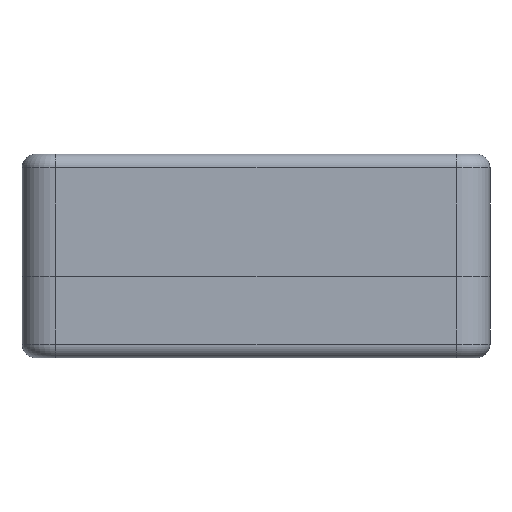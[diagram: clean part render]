
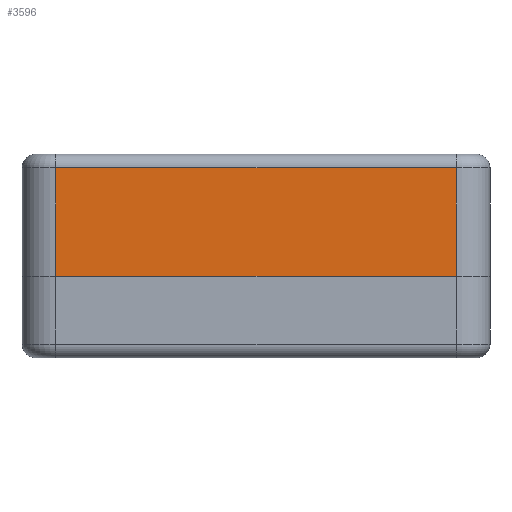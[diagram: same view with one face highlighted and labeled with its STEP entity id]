
A CAD part, left-side view. The second image highlights one B-rep face of the part: STEP entity #3596.
In plain terms, the highlighted planar face has unit normal (-1, 0, 0).
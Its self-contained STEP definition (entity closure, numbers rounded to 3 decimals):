
#128 = EDGE_CURVE ( 'NONE', #1738, #3631, #1146, .T. ) ;
#155 = PLANE ( 'NONE',  #677 ) ;
#450 = CARTESIAN_POINT ( 'NONE',  ( -2., 67., 18. ) ) ;
#495 = CARTESIAN_POINT ( 'NONE',  ( -2., 62., 0. ) ) ;
#602 = VECTOR ( 'NONE', #856, 1000. ) ;
#677 = AXIS2_PLACEMENT_3D ( 'NONE', #450, #2256, #1376 ) ;
#729 = CARTESIAN_POINT ( 'NONE',  ( -2., 3., 16. ) ) ;
#849 = DIRECTION ( 'NONE',  ( 0., 1., 0. ) ) ;
#856 = DIRECTION ( 'NONE',  ( 0., 0., 1. ) ) ;
#887 = EDGE_CURVE ( 'NONE', #3631, #3690, #3464, .T. ) ;
#976 = ORIENTED_EDGE ( 'NONE', *, *, #2249, .T. ) ;
#1101 = EDGE_LOOP ( 'NONE', ( #3405, #1608, #2883, #976 ) ) ;
#1146 = LINE ( 'NONE', #3229, #2765 ) ;
#1175 = DIRECTION ( 'NONE',  ( 0., -1., 0. ) ) ;
#1376 = DIRECTION ( 'NONE',  ( 0., 1., 0. ) ) ;
#1413 = CARTESIAN_POINT ( 'NONE',  ( -2., 3., 18. ) ) ;
#1584 = CARTESIAN_POINT ( 'NONE',  ( -2., 3., 0. ) ) ;
#1608 = ORIENTED_EDGE ( 'NONE', *, *, #128, .T. ) ;
#1738 = VERTEX_POINT ( 'NONE', #729 ) ;
#1908 = VERTEX_POINT ( 'NONE', #1584 ) ;
#2249 = EDGE_CURVE ( 'NONE', #3690, #1908, #2979, .T. ) ;
#2256 = DIRECTION ( 'NONE',  ( 1., 0., 0. ) ) ;
#2678 = LINE ( 'NONE', #1413, #602 ) ;
#2681 = CARTESIAN_POINT ( 'NONE',  ( -2., 67., 0. ) ) ;
#2765 = VECTOR ( 'NONE', #849, 1000. ) ;
#2882 = DIRECTION ( 'NONE',  ( 0., 0., -1. ) ) ;
#2883 = ORIENTED_EDGE ( 'NONE', *, *, #887, .T. ) ;
#2979 = LINE ( 'NONE', #2681, #3028 ) ;
#2999 = CARTESIAN_POINT ( 'NONE',  ( -2., 62., 16. ) ) ;
#3028 = VECTOR ( 'NONE', #1175, 1000. ) ;
#3229 = CARTESIAN_POINT ( 'NONE',  ( -2., 62., 16. ) ) ;
#3405 = ORIENTED_EDGE ( 'NONE', *, *, #3691, .T. ) ;
#3464 = LINE ( 'NONE', #3800, #3701 ) ;
#3474 = FACE_OUTER_BOUND ( 'NONE', #1101, .T. ) ;
#3596 = ADVANCED_FACE ( 'NONE', ( #3474 ), #155, .F. ) ;
#3631 = VERTEX_POINT ( 'NONE', #2999 ) ;
#3690 = VERTEX_POINT ( 'NONE', #495 ) ;
#3691 = EDGE_CURVE ( 'NONE', #1908, #1738, #2678, .T. ) ;
#3701 = VECTOR ( 'NONE', #2882, 1000. ) ;
#3800 = CARTESIAN_POINT ( 'NONE',  ( -2., 62., 18. ) ) ;
